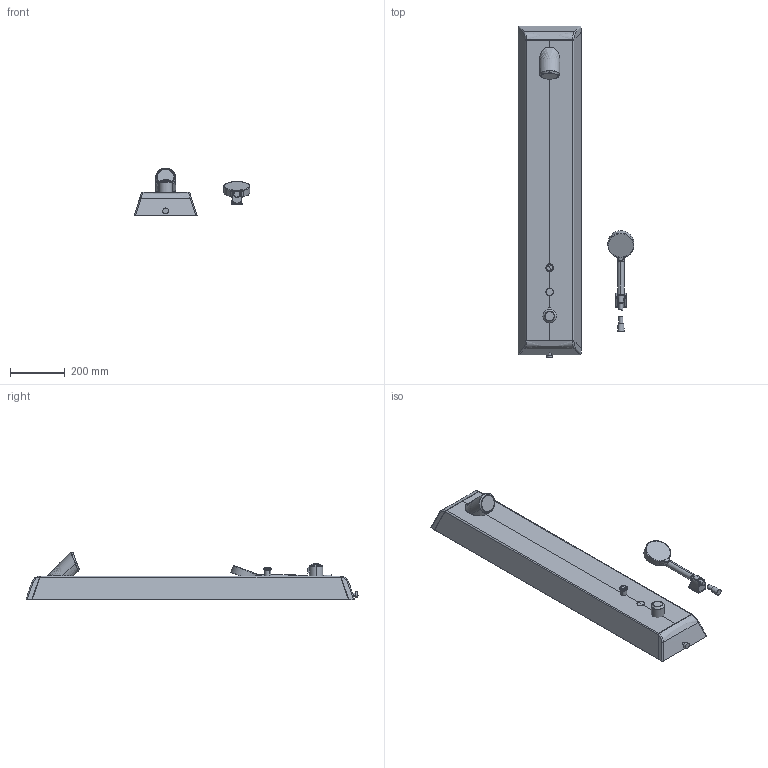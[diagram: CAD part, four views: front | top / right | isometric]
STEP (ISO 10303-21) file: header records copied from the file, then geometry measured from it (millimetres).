
FILE_DESCRIPTION (( 'STEP AP203' ), '1' );
FILE_NAME ('9672FZ(2026)+96722219(2026).STEP', '2026-02-10T08:32:48', ( '' ), ( '' ), 'SwSTEP 2.0', 'SolidWorks 2024', '' );
FILE_SCHEMA (( 'CONFIG_CONTROL_DESIGN' ));
Products named in the file (1): 9672FZ(2026)+96722219(2026)
Bounding box: 421.92 x 1208.48 x 173.75 mm (x, y, z)
Volume: 21286605.2 mm3; surface area: 895326.8 mm2
Topology: 15 solids, 15 shells, 1102 faces, 2646 edges, 1557 vertices
Faces by surface type: bspline 469, cylinder 314, plane 250, torus 34, cone 33, sphere 2
Entity records: 59572 total; most frequent: CARTESIAN_POINT 38044, ORIENTED_EDGE 5210, DIRECTION 3333, EDGE_CURVE 2605, VERTEX_POINT 1557, AXIS2_PLACEMENT_3D 1235, EDGE_LOOP 1130, ADVANCED_FACE 1102
